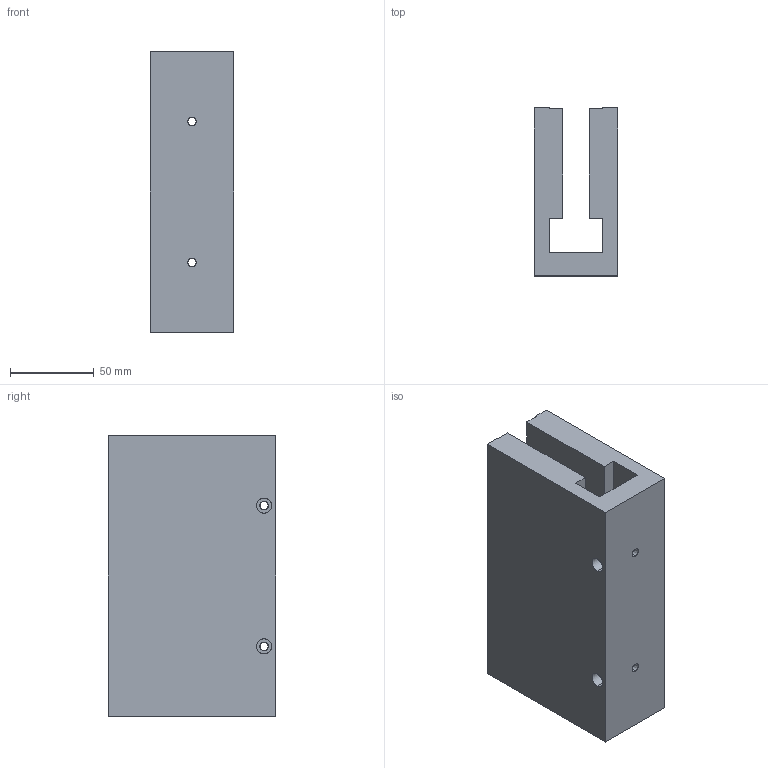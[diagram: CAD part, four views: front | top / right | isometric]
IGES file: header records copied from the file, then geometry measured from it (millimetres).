
Start section: SolidWorks IGES file using analytic representation for surfaces
Bounding box: 50 x 100 x 167.5 mm (x, y, z)
Surface area: 93109.9 mm2 (no closed solid volume)
Topology: 0 solids, 0 shells, 46 faces, 912 edges, 912 vertices
Faces by surface type: revolution 24, bspline 22
